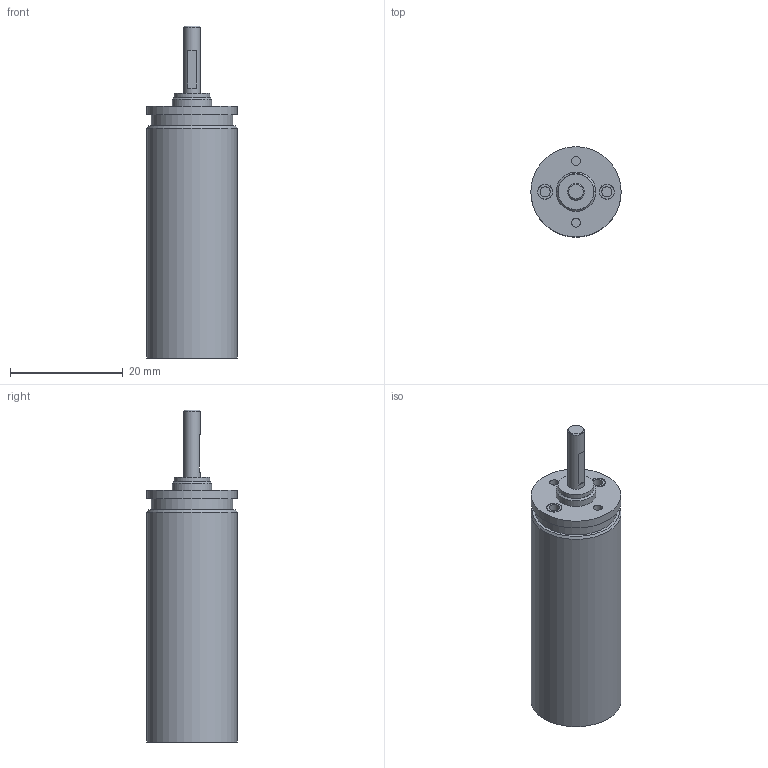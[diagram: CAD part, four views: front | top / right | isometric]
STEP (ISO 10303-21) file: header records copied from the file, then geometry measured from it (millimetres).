
FILE_DESCRIPTION(/* description */ (''),/* implementation_level */ '2;1');
FILE_NAME(/* name */ '15-5_10.stp',/* time_stamp */ '2016-08-24T14:28:41+02:00',/* author */ ('DR. FRITZ FAULHABER GmbH & Co. KG'),/* organization */ ('DR. FRITZ FAULHABER GmbH & Co. KG'),/* preprocessor_version */ 'ST-DEVELOPER v16',/* originating_system */ 'SIEMENS PLM Software NX 10.0',/* authorisation */ '');
FILE_SCHEMA (('AUTOMOTIVE_DESIGN { 1 0 10303 214 3 1 1 1 }'));
Length unit declared in the file: millimetre
Products named in the file (1): H00000516_A
Bounding box: 16 x 16 x 58.8 mm (x, y, z)
Volume: 6691.6 mm3; surface area: 3575.9 mm2
Topology: 1 solids, 1 shells, 41 faces, 64 edges, 42 vertices
Faces by surface type: plane 21, cylinder 17, cone 3
Full cylindrical faces by diameter (mm): 1.6 x2, 1.8 x2, 2.48 x1, 2.584 x2, 2.684 x2, 3 x1, 6 x1, 6.3 x1, 7 x1, 14.5 x1, 15 x1, 16 x2
Entity records: 856 total; most frequent: DIRECTION 166, CARTESIAN_POINT 126, ORIENTED_EDGE 86, AXIS2_PLACEMENT_3D 81, EDGE_LOOP 78, FACE_BOUND 69, EDGE_CURVE 43, ADVANCED_FACE 41
